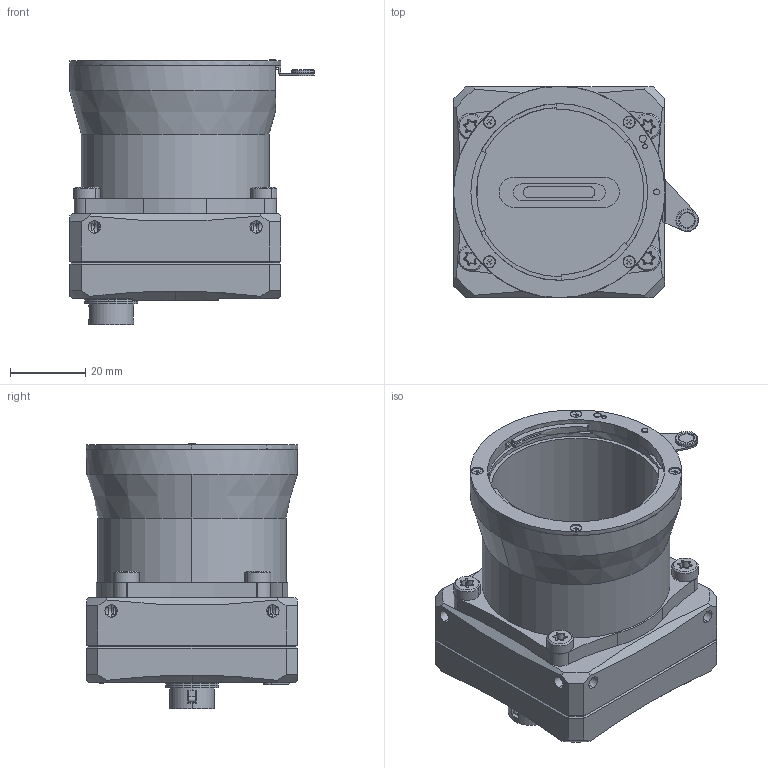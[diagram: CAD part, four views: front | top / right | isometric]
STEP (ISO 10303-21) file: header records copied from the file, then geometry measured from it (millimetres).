
FILE_DESCRIPTION (( 'STEP AP214' ), '1' );
FILE_NAME ('Necta_S_F_mount.STEP', '2021-12-09T16:15:02', ( '' ), ( '' ), 'SwSTEP 2.0', 'SolidWorks 2021', '' );
FILE_SCHEMA (( 'AUTOMOTIVE_DESIGN' ));
Length unit declared in the file: millimetre
Products named in the file (1): Necta_S_F_mount
Bounding box: 65.1 x 56.2 x 70.54 mm (x, y, z)
Volume: 93924.7 mm3; surface area: 40619.1 mm2
Topology: 21 solids, 31 shells, 1641 faces, 4048 edges, 2539 vertices
Faces by surface type: plane 762, cylinder 485, cone 287, bspline 67, torus 40
Entity records: 71771 total; most frequent: CARTESIAN_POINT 14548, DIRECTION 8203, ORIENTED_EDGE 8024, EDGE_CURVE 4012, AXIS2_PLACEMENT_3D 2977, VERTEX_POINT 2539, LINE 2249, VECTOR 2249
